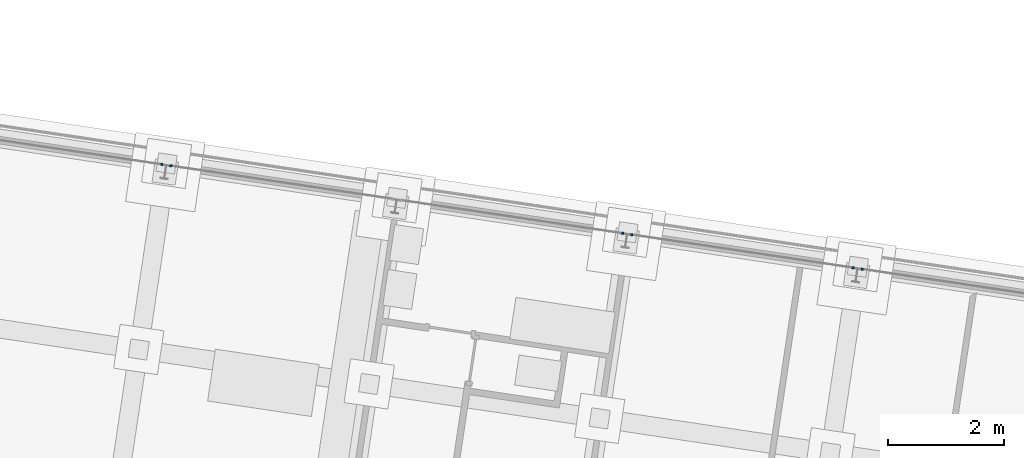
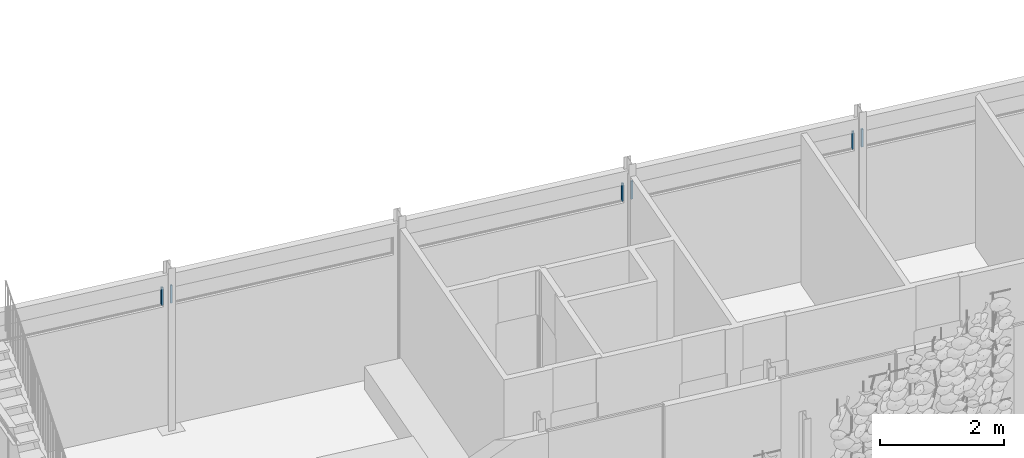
# One storey, part 122 of 142: 6 members.
"""IFC4 building model written with IfcOpenShell, lengths in metres."""

from ifc_helpers import new_model, si_unit, direction, frame, origin_with_axes, place, context, subcontext, project, spatial, rectangle, extrude, material, material_profile, profile_set, profile_usage, type_object, element, save


model = new_model("IFC4")

# Units and contexts
model_context = context("Model", 3, precision=1e-05, world=origin_with_axes(), true_north=direction((0.0, 1.0)))
body_context = subcontext(model_context, "Body", "Model", "MODEL_VIEW")
ifc_project = project(units=[si_unit("AREAUNIT", "SQUARE_METRE"), si_unit("VOLUMEUNIT", "CUBIC_METRE"), si_unit("LENGTHUNIT", "METRE")], contexts=[model_context])

# Site, building, storey
site_placement = place(None, origin_with_axes())
site = spatial("IfcSite", under=ifc_project, at=site_placement, Name="Lares · Rua das Mercês · artigo 4771")
building_placement = place(site_placement, frame((15.0, 9.7, 14.65), z_axis=(0.0, 0.0, 1.0), x_axis=(0.989015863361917, -0.147809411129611, 0.0)))
building = spatial("IfcBuilding", under=site, at=building_placement, Name="Casa Sobreposta")
storey_placement = place(building_placement, origin_with_axes())
storey = spatial("IfcBuildingStorey", under=building, at=storey_placement, Name="00 · Habitação e estacionamento", Elevation=14.65)

# Members
ifc_material = material(Name="Aço pintado / Stahl lackiert", Category="steel")
ifc_material_profile = material_profile(ifc_material, rectangle(XDim=0.035, YDim=0.035))
ifc_profile_set = profile_set([ifc_material_profile], Name="R0.035")
ifc_profile_usage_1 = profile_usage(ifc_profile_set)
member_type = type_object("IfcMemberType", Name="R0.035 / steel", PredefinedType="NOTDEFINED", material=ifc_profile_set)
member_1_placement = place(storey_placement, frame((3.92, 6.4, 2.35), z_axis=(0.0, 0.0, 1.0), x_axis=(1.0, 0.0, 0.0)))
element("IfcMember", 1, at=member_1_placement, inside=storey, type_object=member_type, material=ifc_profile_usage_1, Name="Rasgo norte 1 · montante", context=body_context, shape_type="SweptSolid", body=[
    extrude(rectangle(XDim=0.035, YDim=0.035), origin_with_axes(), (0.0, 0.0, 1.0), 0.35),
])
ifc_profile_usage_2 = profile_usage(ifc_profile_set)
member_2_placement = place(storey_placement, frame((4.08, 6.4, 2.35), z_axis=(0.0, 0.0, 1.0), x_axis=(1.0, 0.0, 0.0)))
element("IfcMember", 2, at=member_2_placement, inside=storey, type_object=member_type, material=ifc_profile_usage_2, Name="Rasgo norte 2 · montante", context=body_context, shape_type="SweptSolid", body=[
    extrude(rectangle(XDim=0.035, YDim=0.035), origin_with_axes(), (0.0, 0.0, 1.0), 0.35),
])
ifc_profile_usage_3 = profile_usage(ifc_profile_set)
member_3_placement = place(storey_placement, frame((11.92, 6.4, 2.35), z_axis=(0.0, 0.0, 1.0), x_axis=(1.0, 0.0, 0.0)))
element("IfcMember", 3, at=member_3_placement, inside=storey, type_object=member_type, material=ifc_profile_usage_3, Name="Rasgo norte 3 · montante", context=body_context, shape_type="SweptSolid", body=[
    extrude(rectangle(XDim=0.035, YDim=0.035), origin_with_axes(), (0.0, 0.0, 1.0), 0.35),
])
ifc_profile_usage_4 = profile_usage(ifc_profile_set)
member_4_placement = place(storey_placement, frame((12.08, 6.4, 2.35), z_axis=(0.0, 0.0, 1.0), x_axis=(1.0, 0.0, 0.0)))
element("IfcMember", 4, at=member_4_placement, inside=storey, type_object=member_type, material=ifc_profile_usage_4, Name="Rasgo norte 4 · montante", context=body_context, shape_type="SweptSolid", body=[
    extrude(rectangle(XDim=0.035, YDim=0.035), origin_with_axes(), (0.0, 0.0, 1.0), 0.35),
])
ifc_profile_usage_5 = profile_usage(ifc_profile_set)
member_5_placement = place(storey_placement, frame((15.92, 6.4, 2.35), z_axis=(0.0, 0.0, 1.0), x_axis=(1.0, 0.0, 0.0)))
element("IfcMember", 5, at=member_5_placement, inside=storey, type_object=member_type, material=ifc_profile_usage_5, Name="Rasgo norte 4 · montante", context=body_context, shape_type="SweptSolid", body=[
    extrude(rectangle(XDim=0.035, YDim=0.035), origin_with_axes(), (0.0, 0.0, 1.0), 0.35),
])
ifc_profile_usage_6 = profile_usage(ifc_profile_set)
member_6_placement = place(storey_placement, frame((16.08, 6.4, 2.35), z_axis=(0.0, 0.0, 1.0), x_axis=(1.0, 0.0, 0.0)))
element("IfcMember", 6, at=member_6_placement, inside=storey, type_object=member_type, material=ifc_profile_usage_6, Name="Rasgo norte 5 · montante", context=body_context, shape_type="SweptSolid", body=[
    extrude(rectangle(XDim=0.035, YDim=0.035), origin_with_axes(), (0.0, 0.0, 1.0), 0.35),
])

save(model, "model.ifc")
